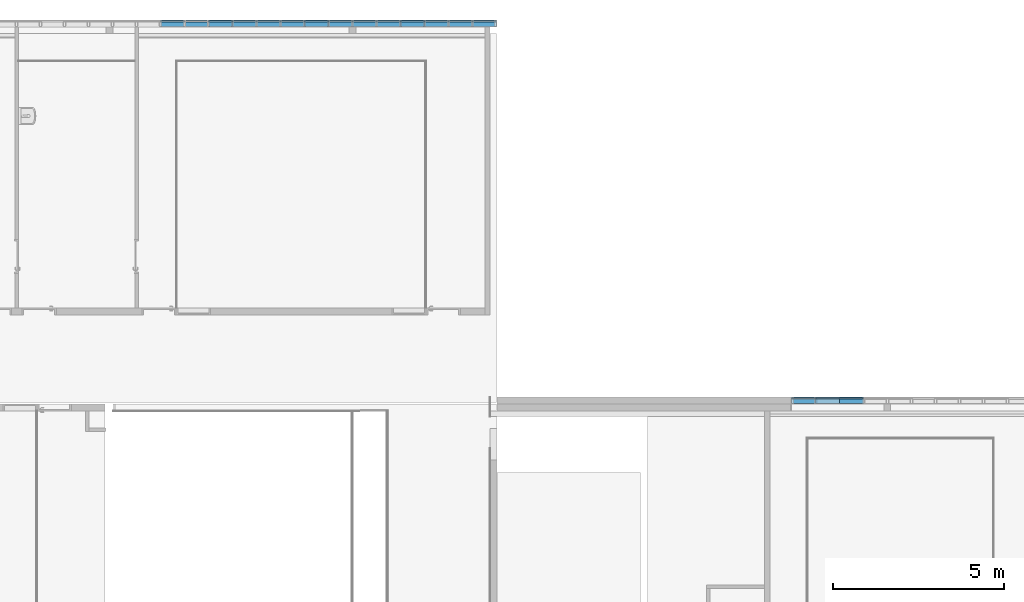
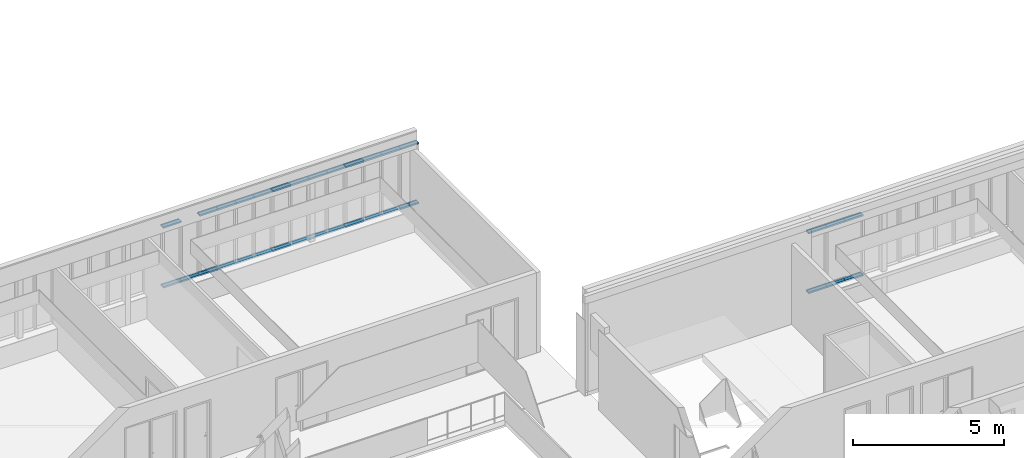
# One storey, part 15 of 87: 40 members, 2 elements without a shape of their own.
"""IFC2X3 building model written with IfcOpenShell, lengths in centimetres."""

from ifc_helpers import new_model, entity, si_unit, converted_unit, derived_unit, direction, frame, origin, place, context, subcontext, project, spatial, polyline, outline, extrude, source, transform, mapped, material, type_object, type_shapes, element, aggregate, save


model = new_model("IFC2X3")

# Units and contexts
model_context = context("Model", 3, precision=0.001, world=origin(), true_north=direction((6.12303176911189e-17, 1.0)))
body_context = subcontext(model_context, "Body", "Model", "MODEL_VIEW")
ifc_project = project(units=[si_unit("LENGTHUNIT", "METRE", prefix="CENTI"), si_unit("AREAUNIT", "SQUARE_METRE"), si_unit("VOLUMEUNIT", "CUBIC_METRE"), converted_unit("PLANEANGLEUNIT", "DEGREE", entity("IfcRatioMeasure", 0.0174532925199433), si_unit("PLANEANGLEUNIT", "RADIAN"), dimensions=[0, 0, 0, 0, 0, 0, 0]), si_unit("MASSUNIT", "GRAM", prefix="KILO"), derived_unit("MASSDENSITYUNIT", [(si_unit("MASSUNIT", "GRAM", prefix="KILO"), 1), (si_unit("LENGTHUNIT", "METRE"), -3)]), si_unit("TIMEUNIT", "SECOND"), si_unit("FREQUENCYUNIT", "HERTZ"), si_unit("THERMODYNAMICTEMPERATUREUNIT", "DEGREE_CELSIUS"), derived_unit("THERMALTRANSMITTANCEUNIT", [(si_unit("MASSUNIT", "GRAM", prefix="KILO"), 1), (si_unit("THERMODYNAMICTEMPERATUREUNIT", "KELVIN"), -1), (si_unit("TIMEUNIT", "SECOND"), -3)]), derived_unit("VOLUMETRICFLOWRATEUNIT", [(si_unit("LENGTHUNIT", "METRE"), 3), (si_unit("TIMEUNIT", "SECOND"), -1)]), si_unit("ELECTRICCURRENTUNIT", "AMPERE"), si_unit("ELECTRICVOLTAGEUNIT", "VOLT"), si_unit("POWERUNIT", "WATT"), si_unit("FORCEUNIT", "NEWTON", prefix="KILO"), si_unit("ILLUMINANCEUNIT", "LUX"), si_unit("LUMINOUSFLUXUNIT", "LUMEN"), si_unit("LUMINOUSINTENSITYUNIT", "CANDELA"), derived_unit("USERDEFINED", [(si_unit("MASSUNIT", "GRAM", prefix="KILO"), -1), (si_unit("LENGTHUNIT", "METRE"), -2), (si_unit("TIMEUNIT", "SECOND"), 3), (si_unit("LUMINOUSFLUXUNIT", "LUMEN"), 1)]), derived_unit("LINEARVELOCITYUNIT", [(si_unit("LENGTHUNIT", "METRE"), 1), (si_unit("TIMEUNIT", "SECOND"), -1)]), si_unit("PRESSUREUNIT", "PASCAL"), derived_unit("USERDEFINED", [(si_unit("LENGTHUNIT", "METRE"), -2), (si_unit("MASSUNIT", "GRAM", prefix="KILO"), 1), (si_unit("TIMEUNIT", "SECOND"), -2)])], contexts=[model_context])

# Site, building, storey
site_placement = place(None, frame((-2781.94577612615, 7442.24238424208, 0.0)))
site = spatial("IfcSite", under=ifc_project, at=site_placement, Name="Default", CompositionType="ELEMENT")
building_placement = place(site_placement, origin())
building = spatial("IfcBuilding", under=site, at=building_placement, CompositionType="ELEMENT")
storey_placement = place(building_placement, frame((0.0, 0.0, 774.0)))
storey = spatial("IfcBuildingStorey", under=building, at=storey_placement, Name="TR - N02 - ARCH", CompositionType="ELEMENT", Elevation=774.0)

# Curtain wall, members
curtain_wall_type = type_object("IfcCurtainWallType", Name="Mur-rideau:07 - mur rideau trame 70cm", PredefinedType="NOTDEFINED")
curtain_wall_1_placement = place(storey_placement, frame((0.0, 0.0, -774.0)))
curtain_wall_1 = element("IfcCurtainWall", 1, at=curtain_wall_1_placement, inside=storey, type_object=curtain_wall_type, Name="Mur-rideau:07 - mur rideau trame 70cm", ObjectType="Mur-rideau:07 - mur rideau trame 70cm")
ifc_material = material(Name="Aluminium")
member_type_1 = type_object("IfcMemberType", Name="150 x 25mm Détails", PredefinedType="MEMBER")
shared_shape_1 = source(origin(), body_context, "Body", "SweptSolid", [
    extrude(outline(polyline([(-5.6666666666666, -3.24999999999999), (-3.66666666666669, -3.24999999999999), (-3.66666666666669, -0.868749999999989), (-0.166666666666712, -0.868749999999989), (-0.166666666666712, -3.25000000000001), (13.3333333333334, -3.25000000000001), (13.3333333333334, 3.24999999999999), (-0.16666666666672, 3.24999999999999), (-0.16666666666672, 0.868749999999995), (-3.66666666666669, 0.868749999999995), (-3.66666666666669, 3.25), (-5.6666666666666, 3.25), (-5.6666666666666, -3.24999999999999)])), frame((-3.24999999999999, -1.96666666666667, -70.0), z_axis=(0.0, 0.0, 1.0), x_axis=(0.0, -1.0, 0.0)), (0.0, 0.0, 1.0), 70.0000000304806),
])
type_shapes(member_type_1, [shared_shape_1])
member_1_placement = place(storey_placement, frame((-3719.4998776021, 26.2000000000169, 332.5), z_axis=(-1.0, 0.0, 0.0), x_axis=(0.0, 0.0, 1.0)))
member_1 = element("IfcMember", 2, at=member_1_placement, type_object=member_type_1, material=ifc_material, Name="Meneau rectangulaire:150 x 25mm Détails", ObjectType="Meneau rectangulaire:150 x 25mm Détails", context=body_context, shape_type="MappedRepresentation", body=[
    mapped(shared_shape_1, transform((0.0, 0.0, 0.0), scale=1.0)),
])
member_type_2 = type_object("IfcMemberType", Name="150 x 25mm Détails", PredefinedType="MEMBER")
shared_shape_2 = source(origin(), body_context, "Body", "SweptSolid", [
    extrude(outline(polyline([(-5.6666666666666, -3.24999999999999), (-3.66666666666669, -3.24999999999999), (-3.66666666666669, -0.868749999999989), (-0.166666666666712, -0.868749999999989), (-0.166666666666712, -3.25000000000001), (13.3333333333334, -3.25000000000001), (13.3333333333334, 3.24999999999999), (-0.16666666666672, 3.24999999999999), (-0.16666666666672, 0.868749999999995), (-3.66666666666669, 0.868749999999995), (-3.66666666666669, 3.25), (-5.6666666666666, 3.25), (-5.6666666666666, -3.24999999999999)])), frame((-3.24999999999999, -1.96666666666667, -70.0), z_axis=(0.0, 0.0, 1.0), x_axis=(0.0, -1.0, 0.0)), (0.0, 0.0, 1.0), 69.9999999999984),
])
type_shapes(member_type_2, [shared_shape_2])
member_2_placement = place(storey_placement, frame((-3789.4998776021, 26.2000000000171, 332.5), z_axis=(-1.0, 0.0, 0.0), x_axis=(0.0, 0.0, 1.0)))
member_2 = element("IfcMember", 3, at=member_2_placement, type_object=member_type_2, material=ifc_material, Name="Meneau rectangulaire:150 x 25mm Détails", ObjectType="Meneau rectangulaire:150 x 25mm Détails", context=body_context, shape_type="MappedRepresentation", body=[
    mapped(shared_shape_2, transform((0.0, 0.0, 0.0), scale=1.0)),
])
member_3_placement = place(storey_placement, frame((-3859.4998776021, 26.2000000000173, 332.5), z_axis=(-1.0, 0.0, 0.0), x_axis=(0.0, 0.0, 1.0)))
member_3 = element("IfcMember", 4, at=member_3_placement, type_object=member_type_2, material=ifc_material, Name="Meneau rectangulaire:150 x 25mm Détails", ObjectType="Meneau rectangulaire:150 x 25mm Détails", context=body_context, shape_type="MappedRepresentation", body=[
    mapped(shared_shape_2, transform((0.0, 0.0, 0.0), scale=1.0)),
])
member_4_placement = place(storey_placement, frame((-3929.4998776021, 26.2000000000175, 332.5), z_axis=(-1.0, 0.0, 0.0), x_axis=(0.0, 0.0, 1.0)))
member_4 = element("IfcMember", 5, at=member_4_placement, type_object=member_type_2, material=ifc_material, Name="Meneau rectangulaire:150 x 25mm Détails", ObjectType="Meneau rectangulaire:150 x 25mm Détails", context=body_context, shape_type="MappedRepresentation", body=[
    mapped(shared_shape_2, transform((0.0, 0.0, 0.0), scale=1.0)),
])
member_5_placement = place(storey_placement, frame((-3999.4998776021, 26.2000000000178, 332.5), z_axis=(-1.0, 0.0, 0.0), x_axis=(0.0, 0.0, 1.0)))
member_5 = element("IfcMember", 6, at=member_5_placement, type_object=member_type_2, material=ifc_material, Name="Meneau rectangulaire:150 x 25mm Détails", ObjectType="Meneau rectangulaire:150 x 25mm Détails", context=body_context, shape_type="MappedRepresentation", body=[
    mapped(shared_shape_2, transform((0.0, 0.0, 0.0), scale=1.0)),
])
member_6_placement = place(storey_placement, frame((-4069.4998776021, 26.200000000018, 332.5), z_axis=(-1.0, 0.0, 0.0), x_axis=(0.0, 0.0, 1.0)))
member_6 = element("IfcMember", 7, at=member_6_placement, type_object=member_type_2, material=ifc_material, Name="Meneau rectangulaire:150 x 25mm Détails", ObjectType="Meneau rectangulaire:150 x 25mm Détails", context=body_context, shape_type="MappedRepresentation", body=[
    mapped(shared_shape_2, transform((0.0, 0.0, 0.0), scale=1.0)),
])
member_7_placement = place(storey_placement, frame((-4139.4998776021, 26.2000000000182, 332.5), z_axis=(-1.0, 0.0, 0.0), x_axis=(0.0, 0.0, 1.0)))
member_7 = element("IfcMember", 8, at=member_7_placement, type_object=member_type_2, material=ifc_material, Name="Meneau rectangulaire:150 x 25mm Détails", ObjectType="Meneau rectangulaire:150 x 25mm Détails", context=body_context, shape_type="MappedRepresentation", body=[
    mapped(shared_shape_2, transform((0.0, 0.0, 0.0), scale=1.0)),
])
member_8_placement = place(storey_placement, frame((-4209.4998776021, 26.2000000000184, 332.5), z_axis=(-1.0, 0.0, 0.0), x_axis=(0.0, 0.0, 1.0)))
member_8 = element("IfcMember", 9, at=member_8_placement, type_object=member_type_2, material=ifc_material, Name="Meneau rectangulaire:150 x 25mm Détails", ObjectType="Meneau rectangulaire:150 x 25mm Détails", context=body_context, shape_type="MappedRepresentation", body=[
    mapped(shared_shape_2, transform((0.0, 0.0, 0.0), scale=1.0)),
])
member_9_placement = place(storey_placement, frame((-4279.4998776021, 26.2000000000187, 332.5), z_axis=(-1.0, 0.0, 0.0), x_axis=(0.0, 0.0, 1.0)))
member_9 = element("IfcMember", 10, at=member_9_placement, type_object=member_type_2, material=ifc_material, Name="Meneau rectangulaire:150 x 25mm Détails", ObjectType="Meneau rectangulaire:150 x 25mm Détails", context=body_context, shape_type="MappedRepresentation", body=[
    mapped(shared_shape_2, transform((0.0, 0.0, 0.0), scale=1.0)),
])
member_10_placement = place(storey_placement, frame((-4349.4998776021, 26.2000000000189, 332.5), z_axis=(-1.0, 0.0, 0.0), x_axis=(0.0, 0.0, 1.0)))
member_10 = element("IfcMember", 11, at=member_10_placement, type_object=member_type_2, material=ifc_material, Name="Meneau rectangulaire:150 x 25mm Détails", ObjectType="Meneau rectangulaire:150 x 25mm Détails", context=body_context, shape_type="MappedRepresentation", body=[
    mapped(shared_shape_2, transform((0.0, 0.0, 0.0), scale=1.0)),
])
member_11_placement = place(storey_placement, frame((-4419.4998776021, 26.2000000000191, 332.5), z_axis=(-1.0, 0.0, 0.0), x_axis=(0.0, 0.0, 1.0)))
member_11 = element("IfcMember", 12, at=member_11_placement, type_object=member_type_2, material=ifc_material, Name="Meneau rectangulaire:150 x 25mm Détails", ObjectType="Meneau rectangulaire:150 x 25mm Détails", context=body_context, shape_type="MappedRepresentation", body=[
    mapped(shared_shape_2, transform((0.0, 0.0, 0.0), scale=1.0)),
])
member_12_placement = place(storey_placement, frame((-4489.4998776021, 26.2000000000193, 332.5), z_axis=(-1.0, 0.0, 0.0), x_axis=(0.0, 0.0, 1.0)))
member_12 = element("IfcMember", 13, at=member_12_placement, type_object=member_type_2, material=ifc_material, Name="Meneau rectangulaire:150 x 25mm Détails", ObjectType="Meneau rectangulaire:150 x 25mm Détails", context=body_context, shape_type="MappedRepresentation", body=[
    mapped(shared_shape_2, transform((0.0, 0.0, 0.0), scale=1.0)),
])
member_13_placement = place(storey_placement, frame((-4629.4998776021, 26.2000000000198, 332.5), z_axis=(-1.0, 0.0, 0.0), x_axis=(0.0, 0.0, 1.0)))
member_13 = element("IfcMember", 14, at=member_13_placement, type_object=member_type_2, material=ifc_material, Name="Meneau rectangulaire:150 x 25mm Détails", ObjectType="Meneau rectangulaire:150 x 25mm Détails", context=body_context, shape_type="MappedRepresentation", body=[
    mapped(shared_shape_2, transform((0.0, 0.0, 0.0), scale=1.0)),
])
member_type_3 = type_object("IfcMemberType", Name="150 x 25mm Détails", PredefinedType="MEMBER")
shared_shape_3 = source(origin(), body_context, "Body", "SweptSolid", [
    extrude(outline(polyline([(-5.66666666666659, -3.25), (-3.66666666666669, -3.25), (-3.66666666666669, -0.868749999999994), (-0.166666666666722, -0.868749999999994), (-0.166666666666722, -3.25000000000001), (13.3333333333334, -3.24999999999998), (13.3333333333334, 3.25000000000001), (-0.166666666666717, 3.25000000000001), (-0.166666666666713, 0.868749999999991), (-3.66666666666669, 0.868749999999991), (-3.66666666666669, 3.24999999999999), (-5.66666666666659, 3.24999999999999), (-5.66666666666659, -3.25)])), frame((-3.24999999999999, -1.96666666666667, -70.0), z_axis=(0.0, 0.0, 1.0), x_axis=(0.0, -1.0, 0.0)), (0.0, 0.0, 1.0), 70.0000000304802),
])
type_shapes(member_type_3, [shared_shape_3])
member_14_placement = place(storey_placement, frame((-3649.49987757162, 26.2000000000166, 83.5), z_axis=(1.0, 0.0, 0.0), x_axis=(0.0, 0.0, -1.0)))
member_14 = element("IfcMember", 15, at=member_14_placement, type_object=member_type_3, material=ifc_material, Name="Meneau rectangulaire:150 x 25mm Détails", ObjectType="Meneau rectangulaire:150 x 25mm Détails", context=body_context, shape_type="MappedRepresentation", body=[
    mapped(shared_shape_3, transform((0.0, 0.0, 0.0), scale=1.0)),
])
member_type_4 = type_object("IfcMemberType", Name="150 x 25mm Détails", PredefinedType="MEMBER")
shared_shape_4 = source(origin(), body_context, "Body", "SweptSolid", [
    extrude(outline(polyline([(-5.66666666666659, -3.25), (-3.66666666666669, -3.25), (-3.66666666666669, -0.868749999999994), (-0.166666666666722, -0.868749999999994), (-0.166666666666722, -3.25000000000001), (13.3333333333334, -3.24999999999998), (13.3333333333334, 3.25000000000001), (-0.166666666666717, 3.25000000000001), (-0.166666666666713, 0.868749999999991), (-3.66666666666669, 0.868749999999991), (-3.66666666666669, 3.24999999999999), (-5.66666666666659, 3.24999999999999), (-5.66666666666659, -3.25)])), frame((-3.24999999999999, -1.96666666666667, -70.0), z_axis=(0.0, 0.0, 1.0), x_axis=(0.0, -1.0, 0.0)), (0.0, 0.0, 1.0), 69.9999999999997),
])
type_shapes(member_type_4, [shared_shape_4])
member_15_placement = place(storey_placement, frame((-3719.4998776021, 26.2000000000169, 83.5), z_axis=(1.0, 0.0, 0.0), x_axis=(0.0, 0.0, -1.0)))
member_15 = element("IfcMember", 16, at=member_15_placement, type_object=member_type_4, material=ifc_material, Name="Meneau rectangulaire:150 x 25mm Détails", ObjectType="Meneau rectangulaire:150 x 25mm Détails", context=body_context, shape_type="MappedRepresentation", body=[
    mapped(shared_shape_4, transform((0.0, 0.0, 0.0), scale=1.0)),
])
member_16_placement = place(storey_placement, frame((-3789.4998776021, 26.2000000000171, 83.5), z_axis=(1.0, 0.0, 0.0), x_axis=(0.0, 0.0, -1.0)))
member_16 = element("IfcMember", 17, at=member_16_placement, type_object=member_type_4, material=ifc_material, Name="Meneau rectangulaire:150 x 25mm Détails", ObjectType="Meneau rectangulaire:150 x 25mm Détails", context=body_context, shape_type="MappedRepresentation", body=[
    mapped(shared_shape_4, transform((0.0, 0.0, 0.0), scale=1.0)),
])
member_17_placement = place(storey_placement, frame((-3859.4998776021, 26.2000000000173, 83.5), z_axis=(1.0, 0.0, 0.0), x_axis=(0.0, 0.0, -1.0)))
member_17 = element("IfcMember", 18, at=member_17_placement, type_object=member_type_4, material=ifc_material, Name="Meneau rectangulaire:150 x 25mm Détails", ObjectType="Meneau rectangulaire:150 x 25mm Détails", context=body_context, shape_type="MappedRepresentation", body=[
    mapped(shared_shape_4, transform((0.0, 0.0, 0.0), scale=1.0)),
])
member_18_placement = place(storey_placement, frame((-3929.4998776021, 26.2000000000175, 83.5), z_axis=(1.0, 0.0, 0.0), x_axis=(0.0, 0.0, -1.0)))
member_18 = element("IfcMember", 19, at=member_18_placement, type_object=member_type_4, material=ifc_material, Name="Meneau rectangulaire:150 x 25mm Détails", ObjectType="Meneau rectangulaire:150 x 25mm Détails", context=body_context, shape_type="MappedRepresentation", body=[
    mapped(shared_shape_4, transform((0.0, 0.0, 0.0), scale=1.0)),
])
member_19_placement = place(storey_placement, frame((-3999.4998776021, 26.2000000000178, 83.5), z_axis=(1.0, 0.0, 0.0), x_axis=(0.0, 0.0, -1.0)))
member_19 = element("IfcMember", 20, at=member_19_placement, type_object=member_type_4, material=ifc_material, Name="Meneau rectangulaire:150 x 25mm Détails", ObjectType="Meneau rectangulaire:150 x 25mm Détails", context=body_context, shape_type="MappedRepresentation", body=[
    mapped(shared_shape_4, transform((0.0, 0.0, 0.0), scale=1.0)),
])
member_20_placement = place(storey_placement, frame((-4069.4998776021, 26.200000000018, 83.5), z_axis=(1.0, 0.0, 0.0), x_axis=(0.0, 0.0, -1.0)))
member_20 = element("IfcMember", 21, at=member_20_placement, type_object=member_type_4, material=ifc_material, Name="Meneau rectangulaire:150 x 25mm Détails", ObjectType="Meneau rectangulaire:150 x 25mm Détails", context=body_context, shape_type="MappedRepresentation", body=[
    mapped(shared_shape_4, transform((0.0, 0.0, 0.0), scale=1.0)),
])
member_21_placement = place(storey_placement, frame((-4139.4998776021, 26.2000000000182, 83.5), z_axis=(1.0, 0.0, 0.0), x_axis=(0.0, 0.0, -1.0)))
member_21 = element("IfcMember", 22, at=member_21_placement, type_object=member_type_4, material=ifc_material, Name="Meneau rectangulaire:150 x 25mm Détails", ObjectType="Meneau rectangulaire:150 x 25mm Détails", context=body_context, shape_type="MappedRepresentation", body=[
    mapped(shared_shape_4, transform((0.0, 0.0, 0.0), scale=1.0)),
])
member_22_placement = place(storey_placement, frame((-4209.4998776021, 26.2000000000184, 83.5), z_axis=(1.0, 0.0, 0.0), x_axis=(0.0, 0.0, -1.0)))
member_22 = element("IfcMember", 23, at=member_22_placement, type_object=member_type_4, material=ifc_material, Name="Meneau rectangulaire:150 x 25mm Détails", ObjectType="Meneau rectangulaire:150 x 25mm Détails", context=body_context, shape_type="MappedRepresentation", body=[
    mapped(shared_shape_4, transform((0.0, 0.0, 0.0), scale=1.0)),
])
member_23_placement = place(storey_placement, frame((-4279.4998776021, 26.2000000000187, 83.5), z_axis=(1.0, 0.0, 0.0), x_axis=(0.0, 0.0, -1.0)))
member_23 = element("IfcMember", 24, at=member_23_placement, type_object=member_type_4, material=ifc_material, Name="Meneau rectangulaire:150 x 25mm Détails", ObjectType="Meneau rectangulaire:150 x 25mm Détails", context=body_context, shape_type="MappedRepresentation", body=[
    mapped(shared_shape_4, transform((0.0, 0.0, 0.0), scale=1.0)),
])
member_24_placement = place(storey_placement, frame((-4349.4998776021, 26.2000000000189, 83.5), z_axis=(1.0, 0.0, 0.0), x_axis=(0.0, 0.0, -1.0)))
member_24 = element("IfcMember", 25, at=member_24_placement, type_object=member_type_4, material=ifc_material, Name="Meneau rectangulaire:150 x 25mm Détails", ObjectType="Meneau rectangulaire:150 x 25mm Détails", context=body_context, shape_type="MappedRepresentation", body=[
    mapped(shared_shape_4, transform((0.0, 0.0, 0.0), scale=1.0)),
])
member_25_placement = place(storey_placement, frame((-4419.4998776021, 26.2000000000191, 83.5), z_axis=(1.0, 0.0, 0.0), x_axis=(0.0, 0.0, -1.0)))
member_25 = element("IfcMember", 26, at=member_25_placement, type_object=member_type_4, material=ifc_material, Name="Meneau rectangulaire:150 x 25mm Détails", ObjectType="Meneau rectangulaire:150 x 25mm Détails", context=body_context, shape_type="MappedRepresentation", body=[
    mapped(shared_shape_4, transform((0.0, 0.0, 0.0), scale=1.0)),
])
member_26_placement = place(storey_placement, frame((-4489.4998776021, 26.2000000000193, 83.5), z_axis=(1.0, 0.0, 0.0), x_axis=(0.0, 0.0, -1.0)))
member_26 = element("IfcMember", 27, at=member_26_placement, type_object=member_type_4, material=ifc_material, Name="Meneau rectangulaire:150 x 25mm Détails", ObjectType="Meneau rectangulaire:150 x 25mm Détails", context=body_context, shape_type="MappedRepresentation", body=[
    mapped(shared_shape_4, transform((0.0, 0.0, 0.0), scale=1.0)),
])
member_27_placement = place(storey_placement, frame((-4559.4998776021, 26.2000000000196, 83.5), z_axis=(1.0, 0.0, 0.0), x_axis=(0.0, 0.0, -1.0)))
member_27 = element("IfcMember", 28, at=member_27_placement, type_object=member_type_4, material=ifc_material, Name="Meneau rectangulaire:150 x 25mm Détails", ObjectType="Meneau rectangulaire:150 x 25mm Détails", context=body_context, shape_type="MappedRepresentation", body=[
    mapped(shared_shape_4, transform((0.0, 0.0, 0.0), scale=1.0)),
])
member_type_5 = type_object("IfcMemberType", Name="150 x 25mm Détails", PredefinedType="MEMBER")
shared_shape_5 = source(origin(), body_context, "Body", "SweptSolid", [
    extrude(outline(polyline([(-5.66666666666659, -3.25), (-3.66666666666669, -3.25), (-3.66666666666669, -0.868749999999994), (-0.166666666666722, -0.868749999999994), (-0.166666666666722, -3.25000000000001), (13.3333333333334, -3.24999999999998), (13.3333333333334, 3.25000000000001), (-0.166666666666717, 3.25000000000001), (-0.166666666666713, 0.868749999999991), (-3.66666666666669, 0.868749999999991), (-3.66666666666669, 3.24999999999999), (-5.66666666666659, 3.24999999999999), (-5.66666666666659, -3.25)])), frame((-3.24999999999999, -1.96666666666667, -68.0), z_axis=(0.0, 0.0, 1.0), x_axis=(0.0, -1.0, 0.0)), (0.0, 0.0, 1.0), 68.0000000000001),
])
type_shapes(member_type_5, [shared_shape_5])
member_28_placement = place(storey_placement, frame((-4420.46862753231, 26.2000000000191, 326.0), z_axis=(1.0, 0.0, 0.0), x_axis=(0.0, 0.0, -1.0)))
member_28 = element("IfcMember", 29, at=member_28_placement, type_object=member_type_5, material=ifc_material, Name="Meneau rectangulaire:150 x 25mm Détails", ObjectType="Meneau rectangulaire:150 x 25mm Détails", context=body_context, shape_type="MappedRepresentation", body=[
    mapped(shared_shape_5, transform((0.0, 0.0, 0.0), scale=1.0)),
])
member_29_placement = place(storey_placement, frame((-4140.46862753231, 26.2000000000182, 326.0), z_axis=(1.0, 0.0, 0.0), x_axis=(0.0, 0.0, -1.0)))
member_29 = element("IfcMember", 30, at=member_29_placement, type_object=member_type_5, material=ifc_material, Name="Meneau rectangulaire:150 x 25mm Détails", ObjectType="Meneau rectangulaire:150 x 25mm Détails", context=body_context, shape_type="MappedRepresentation", body=[
    mapped(shared_shape_5, transform((0.0, 0.0, 0.0), scale=1.0)),
])
member_30_placement = place(storey_placement, frame((-3860.46862753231, 26.2000000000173, 326.0), z_axis=(1.0, 0.0, 0.0), x_axis=(0.0, 0.0, -1.0)))
member_30 = element("IfcMember", 31, at=member_30_placement, type_object=member_type_5, material=ifc_material, Name="Meneau rectangulaire:150 x 25mm Détails", ObjectType="Meneau rectangulaire:150 x 25mm Détails", context=body_context, shape_type="MappedRepresentation", body=[
    mapped(shared_shape_5, transform((0.0, 0.0, 0.0), scale=1.0)),
])
member_type_6 = type_object("IfcMemberType", Name="150 x 25mm Détails", PredefinedType="MEMBER")
shared_shape_6 = source(origin(), body_context, "Body", "SweptSolid", [
    extrude(outline(polyline([(-5.6666666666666, -3.24999999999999), (-3.66666666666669, -3.24999999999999), (-3.66666666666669, -0.868749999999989), (-0.166666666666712, -0.868749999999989), (-0.166666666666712, -3.25000000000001), (13.3333333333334, -3.25000000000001), (13.3333333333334, 3.24999999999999), (-0.16666666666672, 3.24999999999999), (-0.16666666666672, 0.868749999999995), (-3.66666666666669, 0.868749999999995), (-3.66666666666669, 3.25), (-5.6666666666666, 3.25), (-5.6666666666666, -3.24999999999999)])), frame((-3.24999999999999, -1.96666666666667, -68.0), z_axis=(0.0, 0.0, 1.0), x_axis=(0.0, -1.0, 0.0)), (0.0, 0.0, 1.0), 68.0000000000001),
])
type_shapes(member_type_6, [shared_shape_6])
member_31_placement = place(storey_placement, frame((-4488.46862753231, 26.2000000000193, 90.0), z_axis=(-1.0, 0.0, 0.0), x_axis=(0.0, 0.0, 1.0)))
member_31 = element("IfcMember", 32, at=member_31_placement, type_object=member_type_6, material=ifc_material, Name="Meneau rectangulaire:150 x 25mm Détails", ObjectType="Meneau rectangulaire:150 x 25mm Détails", context=body_context, shape_type="MappedRepresentation", body=[
    mapped(shared_shape_6, transform((0.0, 0.0, 0.0), scale=1.0)),
])
member_32_placement = place(storey_placement, frame((-4208.46862753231, 26.2000000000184, 90.0), z_axis=(-1.0, 0.0, 0.0), x_axis=(0.0, 0.0, 1.0)))
member_32 = element("IfcMember", 33, at=member_32_placement, type_object=member_type_6, material=ifc_material, Name="Meneau rectangulaire:150 x 25mm Détails", ObjectType="Meneau rectangulaire:150 x 25mm Détails", context=body_context, shape_type="MappedRepresentation", body=[
    mapped(shared_shape_6, transform((0.0, 0.0, 0.0), scale=1.0)),
])
member_33_placement = place(storey_placement, frame((-3928.46862753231, 26.2000000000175, 90.0), z_axis=(-1.0, 0.0, 0.0), x_axis=(0.0, 0.0, 1.0)))
member_33 = element("IfcMember", 34, at=member_33_placement, type_object=member_type_6, material=ifc_material, Name="Meneau rectangulaire:150 x 25mm Détails", ObjectType="Meneau rectangulaire:150 x 25mm Détails", context=body_context, shape_type="MappedRepresentation", body=[
    mapped(shared_shape_6, transform((0.0, 0.0, 0.0), scale=1.0)),
])
aggregate(curtain_wall_1, [member_1, member_2, member_3, member_4, member_5, member_6, member_7, member_8, member_9, member_10, member_11, member_12, member_13, member_14, member_15, member_16, member_17, member_18, member_19, member_20, member_21, member_22, member_23, member_24, member_25, member_26, member_27, member_28, member_29, member_31, member_32, member_30, member_33])

curtain_wall_2_placement = place(storey_placement, frame((0.0, 0.0, -774.0)))
curtain_wall_2 = element("IfcCurtainWall", 35, at=curtain_wall_2_placement, inside=storey, type_object=curtain_wall_type, Name="Mur-rideau:07 - mur rideau trame 70cm", ObjectType="Mur-rideau:07 - mur rideau trame 70cm")
member_type_7 = type_object("IfcMemberType", Name="150 x 25mm Détails", PredefinedType="MEMBER")
shared_shape_7 = source(origin(), body_context, "Body", "SweptSolid", [
    extrude(outline(polyline([(-13.3333333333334, -3.25000000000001), (0.166666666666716, -3.25000000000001), (0.166666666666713, -0.86874999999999), (3.66666666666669, -0.86874999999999), (3.66666666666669, -3.24999999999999), (5.66666666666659, -3.24999999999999), (5.66666666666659, 3.25), (3.66666666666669, 3.25), (3.66666666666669, 0.868749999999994), (0.166666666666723, 0.868749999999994), (0.166666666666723, 3.25000000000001), (-13.3333333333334, 3.24999999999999), (-13.3333333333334, -3.25000000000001)])), frame((-3.24999999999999, 1.96666666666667, -70.0), z_axis=(0.0, 0.0, 1.0), x_axis=(0.0, -1.0, 0.0)), (0.0, 0.0, 1.0), 70.0000000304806),
])
type_shapes(member_type_7, [shared_shape_7])
member_34_placement = place(storey_placement, frame((-2719.29988284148, -1073.7999999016, 332.5), z_axis=(1.0, 0.0, 0.0), x_axis=(0.0, 0.0, 1.0)))
member_34 = element("IfcMember", 36, at=member_34_placement, type_object=member_type_7, material=ifc_material, Name="Meneau rectangulaire:150 x 25mm Détails", ObjectType="Meneau rectangulaire:150 x 25mm Détails", context=body_context, shape_type="MappedRepresentation", body=[
    mapped(shared_shape_7, transform((0.0, 0.0, 0.0), scale=1.0)),
])
member_type_8 = type_object("IfcMemberType", Name="150 x 25mm Détails", PredefinedType="MEMBER")
shared_shape_8 = source(origin(), body_context, "Body", "SweptSolid", [
    extrude(outline(polyline([(-13.3333333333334, -3.25000000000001), (0.166666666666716, -3.25000000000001), (0.166666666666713, -0.86874999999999), (3.66666666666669, -0.86874999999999), (3.66666666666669, -3.24999999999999), (5.66666666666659, -3.24999999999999), (5.66666666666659, 3.25), (3.66666666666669, 3.25), (3.66666666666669, 0.868749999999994), (0.166666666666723, 0.868749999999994), (0.166666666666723, 3.25000000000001), (-13.3333333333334, 3.24999999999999), (-13.3333333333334, -3.25000000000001)])), frame((-3.24999999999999, 1.96666666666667, -70.0), z_axis=(0.0, 0.0, 1.0), x_axis=(0.0, -1.0, 0.0)), (0.0, 0.0, 1.0), 69.9999999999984),
])
type_shapes(member_type_8, [shared_shape_8])
member_35_placement = place(storey_placement, frame((-2649.29988284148, -1073.7999999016, 332.5), z_axis=(1.0, 0.0, 0.0), x_axis=(0.0, 0.0, 1.0)))
member_35 = element("IfcMember", 37, at=member_35_placement, type_object=member_type_8, material=ifc_material, Name="Meneau rectangulaire:150 x 25mm Détails", ObjectType="Meneau rectangulaire:150 x 25mm Détails", context=body_context, shape_type="MappedRepresentation", body=[
    mapped(shared_shape_8, transform((0.0, 0.0, 0.0), scale=1.0)),
])
member_36_placement = place(storey_placement, frame((-2579.29988284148, -1073.7999999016, 332.5), z_axis=(1.0, 0.0, 0.0), x_axis=(0.0, 0.0, 1.0)))
member_36 = element("IfcMember", 38, at=member_36_placement, type_object=member_type_8, material=ifc_material, Name="Meneau rectangulaire:150 x 25mm Détails", ObjectType="Meneau rectangulaire:150 x 25mm Détails", context=body_context, shape_type="MappedRepresentation", body=[
    mapped(shared_shape_8, transform((0.0, 0.0, 0.0), scale=1.0)),
])
member_type_9 = type_object("IfcMemberType", Name="150 x 25mm Détails", PredefinedType="MEMBER")
shared_shape_9 = source(origin(), body_context, "Body", "SweptSolid", [
    extrude(outline(polyline([(-13.3333333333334, -3.24999999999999), (0.166666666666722, -3.24999999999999), (0.166666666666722, -0.868749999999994), (3.66666666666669, -0.868749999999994), (3.66666666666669, -3.25), (5.66666666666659, -3.25), (5.66666666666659, 3.24999999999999), (3.66666666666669, 3.24999999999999), (3.66666666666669, 0.86874999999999), (0.166666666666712, 0.86874999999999), (0.166666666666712, 3.25000000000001), (-13.3333333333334, 3.25000000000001), (-13.3333333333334, -3.24999999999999)])), frame((-3.24999999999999, 1.96666666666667, -70.0), z_axis=(0.0, 0.0, 1.0), x_axis=(0.0, -1.0, 0.0)), (0.0, 0.0, 1.0), 70.0000000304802),
])
type_shapes(member_type_9, [shared_shape_9])
member_37_placement = place(storey_placement, frame((-2789.29988287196, -1073.7999999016, 83.5), z_axis=(-1.0, 0.0, 0.0), x_axis=(0.0, 0.0, -1.0)))
member_37 = element("IfcMember", 39, at=member_37_placement, type_object=member_type_9, material=ifc_material, Name="Meneau rectangulaire:150 x 25mm Détails", ObjectType="Meneau rectangulaire:150 x 25mm Détails", context=body_context, shape_type="MappedRepresentation", body=[
    mapped(shared_shape_9, transform((0.0, 0.0, 0.0), scale=1.0)),
])
member_type_10 = type_object("IfcMemberType", Name="150 x 25mm Détails", PredefinedType="MEMBER")
shared_shape_10 = source(origin(), body_context, "Body", "SweptSolid", [
    extrude(outline(polyline([(-13.3333333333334, -3.24999999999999), (0.166666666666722, -3.24999999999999), (0.166666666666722, -0.868749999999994), (3.66666666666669, -0.868749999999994), (3.66666666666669, -3.25), (5.66666666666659, -3.25), (5.66666666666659, 3.24999999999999), (3.66666666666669, 3.24999999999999), (3.66666666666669, 0.86874999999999), (0.166666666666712, 0.86874999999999), (0.166666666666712, 3.25000000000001), (-13.3333333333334, 3.25000000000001), (-13.3333333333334, -3.24999999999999)])), frame((-3.24999999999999, 1.96666666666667, -70.0), z_axis=(0.0, 0.0, 1.0), x_axis=(0.0, -1.0, 0.0)), (0.0, 0.0, 1.0), 69.9999999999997),
])
type_shapes(member_type_10, [shared_shape_10])
member_38_placement = place(storey_placement, frame((-2719.29988284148, -1073.7999999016, 83.5), z_axis=(-1.0, 0.0, 0.0), x_axis=(0.0, 0.0, -1.0)))
member_38 = element("IfcMember", 40, at=member_38_placement, type_object=member_type_10, material=ifc_material, Name="Meneau rectangulaire:150 x 25mm Détails", ObjectType="Meneau rectangulaire:150 x 25mm Détails", context=body_context, shape_type="MappedRepresentation", body=[
    mapped(shared_shape_10, transform((0.0, 0.0, 0.0), scale=1.0)),
])
member_type_11 = type_object("IfcMemberType", Name="150 x 25mm Détails", PredefinedType="MEMBER")
shared_shape_11 = source(origin(), body_context, "Body", "SweptSolid", [
    extrude(outline(polyline([(-13.3333333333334, -3.24999999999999), (0.166666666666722, -3.24999999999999), (0.166666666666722, -0.868749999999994), (3.66666666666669, -0.868749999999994), (3.66666666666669, -3.25), (5.66666666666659, -3.25), (5.66666666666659, 3.24999999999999), (3.66666666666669, 3.24999999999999), (3.66666666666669, 0.86874999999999), (0.166666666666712, 0.86874999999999), (0.166666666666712, 3.25000000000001), (-13.3333333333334, 3.25000000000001), (-13.3333333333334, -3.24999999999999)])), frame((-3.24999999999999, 1.96666666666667, -70.0), z_axis=(0.0, 0.0, 1.0), x_axis=(0.0, -1.0, 0.0)), (0.0, 0.0, 1.0), 70.0000000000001),
])
type_shapes(member_type_11, [shared_shape_11])
member_39_placement = place(storey_placement, frame((-2649.29988284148, -1073.7999999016, 83.5), z_axis=(-1.0, 0.0, 0.0), x_axis=(0.0, 0.0, -1.0)))
member_39 = element("IfcMember", 41, at=member_39_placement, type_object=member_type_11, material=ifc_material, Name="Meneau rectangulaire:150 x 25mm Détails", ObjectType="Meneau rectangulaire:150 x 25mm Détails", context=body_context, shape_type="MappedRepresentation", body=[
    mapped(shared_shape_11, transform((0.0, 0.0, 0.0), scale=1.0)),
])
member_type_12 = type_object("IfcMemberType", Name="150 x 25mm Détails", PredefinedType="MEMBER")
shared_shape_12 = source(origin(), body_context, "Body", "SweptSolid", [
    extrude(outline(polyline([(-13.3333333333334, -3.25000000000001), (0.166666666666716, -3.25000000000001), (0.166666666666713, -0.86874999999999), (3.66666666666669, -0.86874999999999), (3.66666666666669, -3.24999999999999), (5.66666666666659, -3.24999999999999), (5.66666666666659, 3.25), (3.66666666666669, 3.25), (3.66666666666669, 0.868749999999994), (0.166666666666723, 0.868749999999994), (0.166666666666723, 3.25000000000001), (-13.3333333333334, 3.24999999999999), (-13.3333333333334, -3.25000000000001)])), frame((-3.24999999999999, 1.96666666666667, -66.7500000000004), z_axis=(0.0, 0.0, 1.0), x_axis=(0.0, -1.0, 0.0)), (0.0, 0.0, 1.0), 66.7500000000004),
])
type_shapes(member_type_12, [shared_shape_12])
member_40_placement = place(storey_placement, frame((-2582.54988284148, -1073.7999999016, 90.0), z_axis=(1.0, 0.0, 0.0), x_axis=(0.0, 0.0, 1.0)))
member_40 = element("IfcMember", 42, at=member_40_placement, type_object=member_type_12, material=ifc_material, Name="Meneau rectangulaire:150 x 25mm Détails", ObjectType="Meneau rectangulaire:150 x 25mm Détails", context=body_context, shape_type="MappedRepresentation", body=[
    mapped(shared_shape_12, transform((0.0, 0.0, 0.0), scale=1.0)),
])
aggregate(curtain_wall_2, [member_34, member_35, member_36, member_37, member_38, member_39, member_40])

save(model, "model.ifc")
